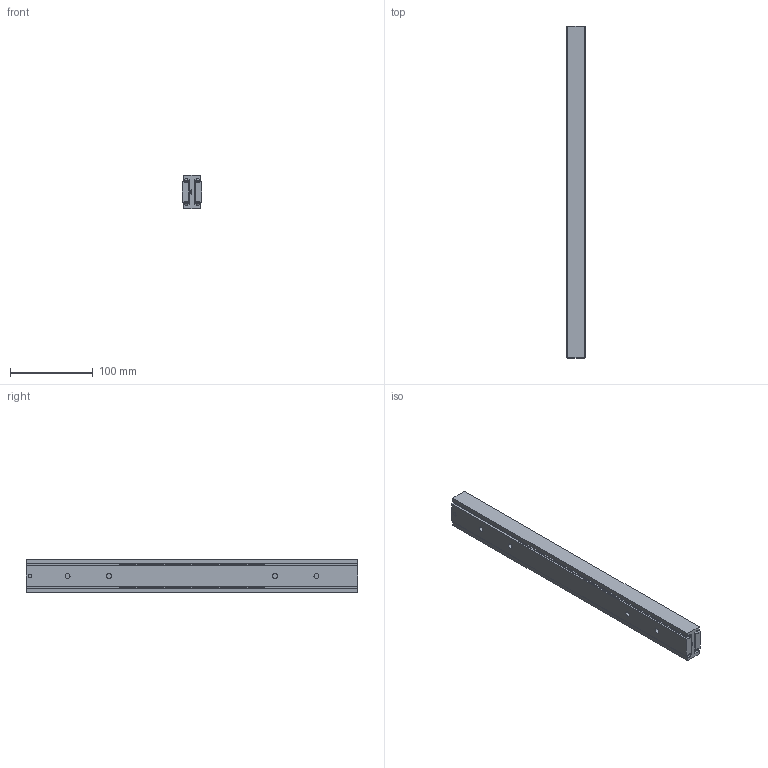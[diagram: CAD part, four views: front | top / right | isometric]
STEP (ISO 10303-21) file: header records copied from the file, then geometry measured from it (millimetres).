
FILE_DESCRIPTION(/* description */ (''),/* implementation_level */ '2;1');
FILE_NAME(/* name */ 'D:\Zeichnungen Schienen Komplett\MX-DTP40\MX-DTP40.040\MX-DTP40.040_eingefahren.step',/* time_stamp */ '2022-02-21T15:01:32+01:00',/* author */ ('zmile'),/* organization */ (''),/* preprocessor_version */ 'ST-DEVELOPER v16.13',/* originating_system */ 'AutoCAD Mechanical',/* authorisation */ '');
FILE_SCHEMA (('AUTOMOTIVE_DESIGN { 1 0 10303 214 3 1 1 }'));
Length unit declared in the file: millimetre
Products named in the file (1): Product
Bounding box: 24 x 400 x 40 mm (x, y, z)
Volume: 302869.5 mm3; surface area: 152066.8 mm2
Topology: 47 solids, 47 shells, 288 faces, 726 edges, 480 vertices
Faces by surface type: plane 198, cylinder 48, sphere 28, bspline 8, torus 6
Full cylindrical faces by diameter (mm): 6 x36, 10 x2
Entity records: 13584 total; most frequent: CARTESIAN_POINT 6844, DIRECTION 1308, ORIENTED_EDGE 1248, EDGE_CURVE 624, LINE 478, VECTOR 478, VERTEX_POINT 478, AXIS2_PLACEMENT_3D 415
